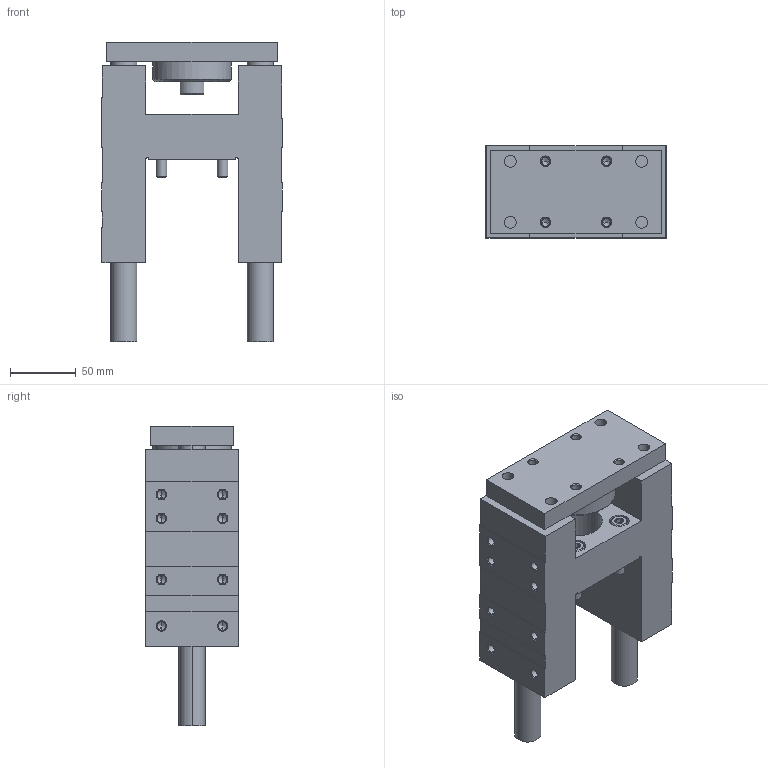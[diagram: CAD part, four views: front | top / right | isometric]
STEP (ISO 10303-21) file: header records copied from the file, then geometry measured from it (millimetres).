
FILE_DESCRIPTION (( 'STEP AP203' ), '1' );
FILE_NAME ('GB50-40.STEP', '2020-04-24T11:25:56', ( '' ), ( '' ), 'SwSTEP 2.0', 'SolidWorks 2019', '' );
FILE_SCHEMA (( 'CONFIG_CONTROL_DESIGN' ));
Length unit declared in the file: millimetre
Products named in the file (1): GB50-40
Bounding box: 137 x 70 x 228 mm (x, y, z)
Volume: 1002092 mm3; surface area: 173511.1 mm2
Topology: 6 solids, 6 shells, 377 faces, 852 edges, 480 vertices
Faces by surface type: cone 154, plane 117, cylinder 106
Entity records: 10863 total; most frequent: CARTESIAN_POINT 2350, DIRECTION 1902, ORIENTED_EDGE 1624, EDGE_CURVE 812, AXIS2_PLACEMENT_3D 744, VERTEX_POINT 480, EDGE_LOOP 440, LINE 414
